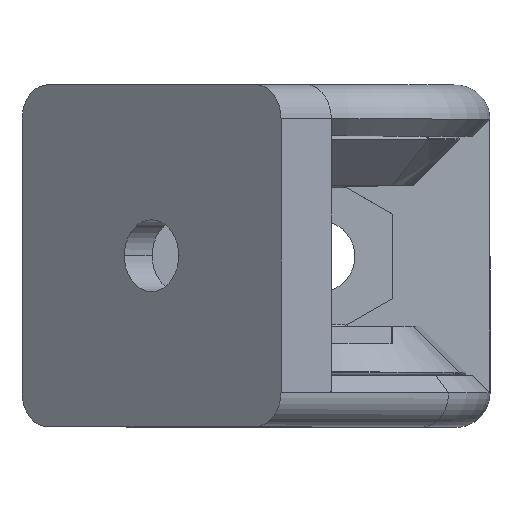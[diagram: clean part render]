
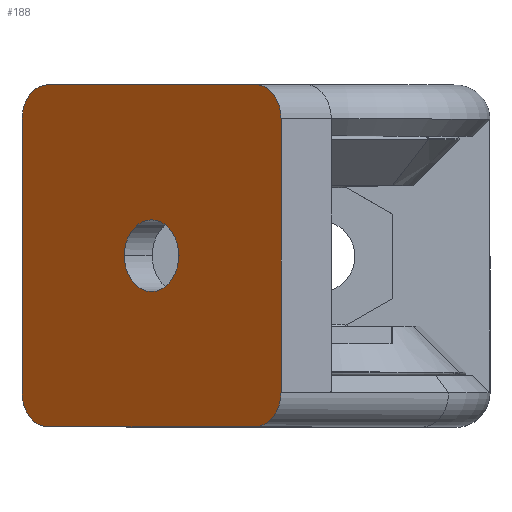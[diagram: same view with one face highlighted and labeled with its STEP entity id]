
A CAD part, top view. The second image highlights one B-rep face of the part: STEP entity #188.
In plain terms, the highlighted planar face has unit normal (-0.653, 0, 0.757) as drawn and (0, 0, -1) by its records, which use the part's own axes.
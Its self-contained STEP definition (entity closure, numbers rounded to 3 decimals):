
#34 = CIRCLE ( 'NONE', #2896, 4. ) ;
#49 = CARTESIAN_POINT ( 'NONE',  ( -16., -20., 0. ) ) ;
#145 = DIRECTION ( 'NONE',  ( 0., -1., 0. ) ) ;
#188 = ADVANCED_FACE ( 'NONE', ( #3336, #1430 ), #1959, .T. ) ;
#211 = EDGE_CURVE ( 'NONE', #4775, #4583, #2584, .T. ) ;
#330 = VECTOR ( 'NONE', #4500, 1000. ) ;
#409 = CARTESIAN_POINT ( 'NONE',  ( 16., -20., 0. ) ) ;
#462 = VERTEX_POINT ( 'NONE', #3268 ) ;
#506 = LINE ( 'NONE', #3960, #1388 ) ;
#528 = CARTESIAN_POINT ( 'NONE',  ( 16., 16., 0. ) ) ;
#580 = DIRECTION ( 'NONE',  ( -1., 0., 0. ) ) ;
#594 = VERTEX_POINT ( 'NONE', #4531 ) ;
#652 = ORIENTED_EDGE ( 'NONE', *, *, #4480, .F. ) ;
#684 = CIRCLE ( 'NONE', #3794, 4. ) ;
#687 = CARTESIAN_POINT ( 'NONE',  ( 20., 16., 0. ) ) ;
#692 = AXIS2_PLACEMENT_3D ( 'NONE', #4255, #935, #2438 ) ;
#696 = CARTESIAN_POINT ( 'NONE',  ( 20., 16., 0. ) ) ;
#733 = EDGE_CURVE ( 'NONE', #2615, #462, #2832, .T. ) ;
#773 = CARTESIAN_POINT ( 'NONE',  ( 20., -16., 0. ) ) ;
#797 = DIRECTION ( 'NONE',  ( 0., 0., 1. ) ) ;
#890 = CARTESIAN_POINT ( 'NONE',  ( -16., 20., 0. ) ) ;
#935 = DIRECTION ( 'NONE',  ( 0., 0., 1. ) ) ;
#975 = DIRECTION ( 'NONE',  ( 1., 0., 0. ) ) ;
#1061 = DIRECTION ( 'NONE',  ( 0., 0., -1. ) ) ;
#1152 = ORIENTED_EDGE ( 'NONE', *, *, #2966, .F. ) ;
#1256 = CARTESIAN_POINT ( 'NONE',  ( -16., 16., 0. ) ) ;
#1295 = EDGE_LOOP ( 'NONE', ( #2507, #1766 ) ) ;
#1302 = CARTESIAN_POINT ( 'NONE',  ( 16., -16., 0. ) ) ;
#1388 = VECTOR ( 'NONE', #145, 1000. ) ;
#1411 = DIRECTION ( 'NONE',  ( 0., 0., 1. ) ) ;
#1430 = FACE_BOUND ( 'NONE', #1295, .T. ) ;
#1482 = CARTESIAN_POINT ( 'NONE',  ( 0., 4.2, 0. ) ) ;
#1509 = ORIENTED_EDGE ( 'NONE', *, *, #4879, .F. ) ;
#1540 = CARTESIAN_POINT ( 'NONE',  ( 0., 0., 0. ) ) ;
#1595 = DIRECTION ( 'NONE',  ( 0., 1., 0. ) ) ;
#1766 = ORIENTED_EDGE ( 'NONE', *, *, #3587, .T. ) ;
#1838 = CIRCLE ( 'NONE', #2879, 4. ) ;
#1885 = VERTEX_POINT ( 'NONE', #49 ) ;
#1959 = PLANE ( 'NONE',  #4613 ) ;
#2102 = DIRECTION ( 'NONE',  ( 0., 0., 1. ) ) ;
#2231 = VERTEX_POINT ( 'NONE', #3714 ) ;
#2344 = CIRCLE ( 'NONE', #4013, 4. ) ;
#2366 = CARTESIAN_POINT ( 'NONE',  ( -16., 20., 0. ) ) ;
#2388 = LINE ( 'NONE', #2366, #3712 ) ;
#2420 = DIRECTION ( 'NONE',  ( 0., -1., 0. ) ) ;
#2438 = DIRECTION ( 'NONE',  ( 0., -1., 0. ) ) ;
#2507 = ORIENTED_EDGE ( 'NONE', *, *, #733, .T. ) ;
#2531 = VECTOR ( 'NONE', #975, 1000. ) ;
#2584 = LINE ( 'NONE', #687, #330 ) ;
#2615 = VERTEX_POINT ( 'NONE', #1482 ) ;
#2826 = DIRECTION ( 'NONE',  ( 0., 0., 1. ) ) ;
#2830 = CIRCLE ( 'NONE', #3551, 4.2 ) ;
#2832 = CIRCLE ( 'NONE', #692, 4.2 ) ;
#2868 = LINE ( 'NONE', #4388, #2531 ) ;
#2879 = AXIS2_PLACEMENT_3D ( 'NONE', #1256, #2826, #580 ) ;
#2896 = AXIS2_PLACEMENT_3D ( 'NONE', #528, #2102, #4713 ) ;
#2966 = EDGE_CURVE ( 'NONE', #1885, #4029, #2868, .T. ) ;
#2969 = DIRECTION ( 'NONE',  ( 0., -1., 0. ) ) ;
#3011 = ORIENTED_EDGE ( 'NONE', *, *, #3339, .F. ) ;
#3169 = CARTESIAN_POINT ( 'NONE',  ( -16., -16., 0. ) ) ;
#3268 = CARTESIAN_POINT ( 'NONE',  ( 0., -4.2, 0. ) ) ;
#3336 = FACE_OUTER_BOUND ( 'NONE', #4824, .T. ) ;
#3339 = EDGE_CURVE ( 'NONE', #594, #1885, #684, .T. ) ;
#3347 = ORIENTED_EDGE ( 'NONE', *, *, #211, .F. ) ;
#3497 = CARTESIAN_POINT ( 'NONE',  ( -20., -20., 0. ) ) ;
#3551 = AXIS2_PLACEMENT_3D ( 'NONE', #1540, #797, #2969 ) ;
#3572 = ORIENTED_EDGE ( 'NONE', *, *, #3853, .F. ) ;
#3587 = EDGE_CURVE ( 'NONE', #462, #2615, #2830, .T. ) ;
#3712 = VECTOR ( 'NONE', #4323, 1000. ) ;
#3714 = CARTESIAN_POINT ( 'NONE',  ( -20., 16., 0. ) ) ;
#3722 = EDGE_CURVE ( 'NONE', #3816, #3728, #2388, .T. ) ;
#3728 = VERTEX_POINT ( 'NONE', #890 ) ;
#3794 = AXIS2_PLACEMENT_3D ( 'NONE', #3169, #4673, #2420 ) ;
#3816 = VERTEX_POINT ( 'NONE', #4254 ) ;
#3853 = EDGE_CURVE ( 'NONE', #4029, #4775, #2344, .T. ) ;
#3960 = CARTESIAN_POINT ( 'NONE',  ( -20., -16., 0. ) ) ;
#4013 = AXIS2_PLACEMENT_3D ( 'NONE', #1302, #1411, #4429 ) ;
#4029 = VERTEX_POINT ( 'NONE', #409 ) ;
#4119 = EDGE_CURVE ( 'NONE', #4583, #3816, #34, .T. ) ;
#4248 = ORIENTED_EDGE ( 'NONE', *, *, #4119, .F. ) ;
#4254 = CARTESIAN_POINT ( 'NONE',  ( 16., 20., 0. ) ) ;
#4255 = CARTESIAN_POINT ( 'NONE',  ( 0., 0., 0. ) ) ;
#4323 = DIRECTION ( 'NONE',  ( -1., 0., 0. ) ) ;
#4388 = CARTESIAN_POINT ( 'NONE',  ( 16., -20., 0. ) ) ;
#4429 = DIRECTION ( 'NONE',  ( 1., 0., 0. ) ) ;
#4480 = EDGE_CURVE ( 'NONE', #2231, #594, #506, .T. ) ;
#4500 = DIRECTION ( 'NONE',  ( 0., 1., 0. ) ) ;
#4531 = CARTESIAN_POINT ( 'NONE',  ( -20., -16., 0. ) ) ;
#4583 = VERTEX_POINT ( 'NONE', #696 ) ;
#4613 = AXIS2_PLACEMENT_3D ( 'NONE', #3497, #1061, #1595 ) ;
#4673 = DIRECTION ( 'NONE',  ( 0., 0., 1. ) ) ;
#4713 = DIRECTION ( 'NONE',  ( 0., 1., 0. ) ) ;
#4775 = VERTEX_POINT ( 'NONE', #773 ) ;
#4824 = EDGE_LOOP ( 'NONE', ( #3572, #1152, #3011, #652, #1509, #4840, #4248, #3347 ) ) ;
#4840 = ORIENTED_EDGE ( 'NONE', *, *, #3722, .F. ) ;
#4879 = EDGE_CURVE ( 'NONE', #3728, #2231, #1838, .T. ) ;
